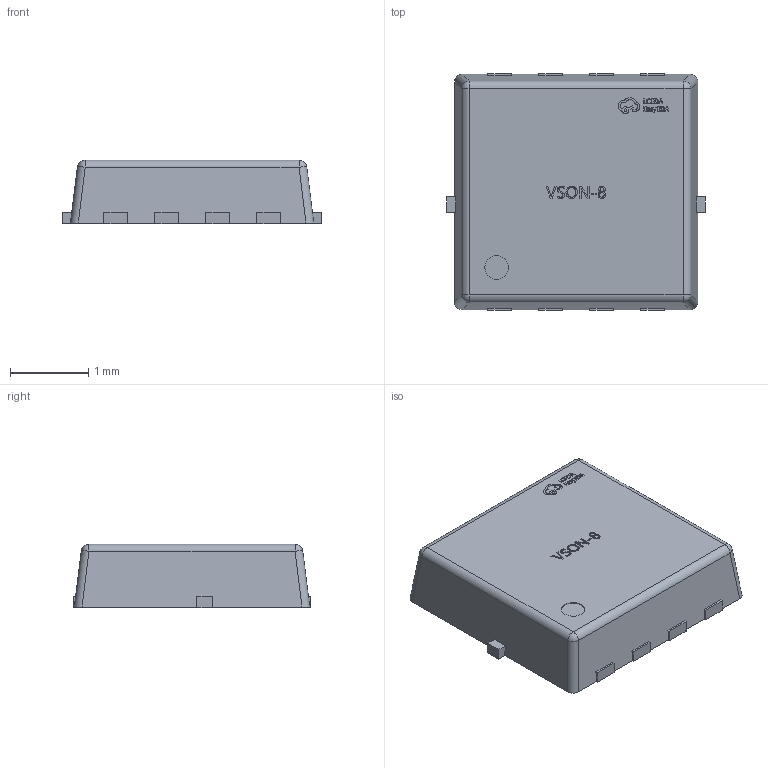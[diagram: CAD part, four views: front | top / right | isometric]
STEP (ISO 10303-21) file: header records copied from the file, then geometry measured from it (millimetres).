
FILE_DESCRIPTION (( 'STEP AP214' ), '1' );
FILE_NAME ('VSON-CLIP-8_L3.1-W3.0-H0.8-P0.65.step', '2022-07-26T09:33:35', ( '' ), ( '' ), 'SwSTEP 2.0', 'SolidWorks 2020', '' );
FILE_SCHEMA (( 'AUTOMOTIVE_DESIGN' ));
Length unit declared in the file: millimetre
Products named in the file (1): VSON-CLIP-8_L3.1-W3.0-H0.8-P0.65
Bounding box: 3.3 x 3.02 x 0.81 mm (x, y, z)
Volume: 7 mm3; surface area: 27.1 mm2
Topology: 14 solids, 14 shells, 453 faces, 1212 edges, 804 vertices
Faces by surface type: plane 285, bspline 154, cylinder 10, sphere 4
Entity records: 22612 total; most frequent: CARTESIAN_POINT 7196, ORIENTED_EDGE 2424, DIRECTION 1512, EDGE_CURVE 1212, VECTOR 880, LINE 880, VERTEX_POINT 804, EDGE_LOOP 482
